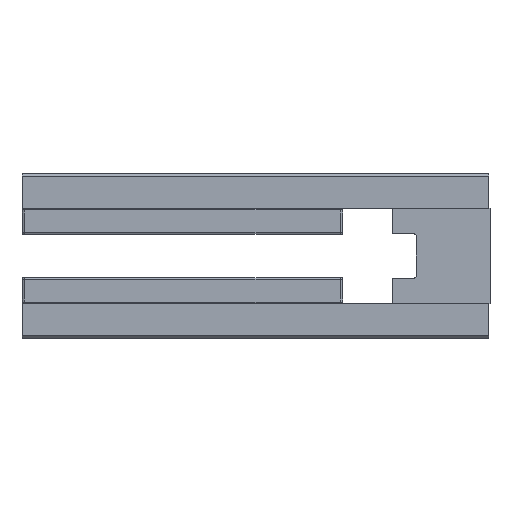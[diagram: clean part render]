
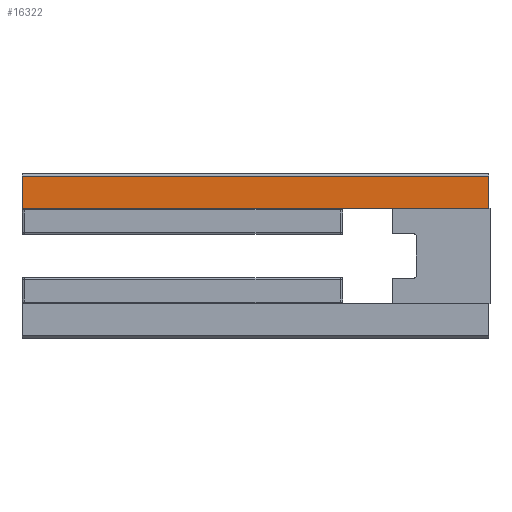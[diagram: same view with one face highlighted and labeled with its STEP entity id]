
A CAD part, front view. The second image highlights one B-rep face of the part: STEP entity #16322.
In plain terms, the highlighted planar face has unit normal (0, -1, 0).
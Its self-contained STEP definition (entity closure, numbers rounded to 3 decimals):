
#314 = ORIENTED_EDGE ( 'NONE', *, *, #17160, .F. ) ;
#1542 = EDGE_CURVE ( 'NONE', #21745, #1947, #18080, .T. ) ;
#1947 = VERTEX_POINT ( 'NONE', #9264 ) ;
#2206 = ORIENTED_EDGE ( 'NONE', *, *, #1542, .T. ) ;
#3010 = CARTESIAN_POINT ( 'NONE',  ( 0., 19.04, 5.5 ) ) ;
#4591 = VERTEX_POINT ( 'NONE', #20540 ) ;
#4744 = LINE ( 'NONE', #9221, #11172 ) ;
#6145 = VECTOR ( 'NONE', #19027, 1000. ) ;
#7275 = CARTESIAN_POINT ( 'NONE',  ( 80., 19.04, -4. ) ) ;
#7338 = DIRECTION ( 'NONE',  ( 0., 0., 1. ) ) ;
#7958 = CARTESIAN_POINT ( 'NONE',  ( 0., 19.04, 0. ) ) ;
#9221 = CARTESIAN_POINT ( 'NONE',  ( 0., 19.04, -4. ) ) ;
#9264 = CARTESIAN_POINT ( 'NONE',  ( 80., 19.04, 0. ) ) ;
#9361 = ORIENTED_EDGE ( 'NONE', *, *, #19065, .T. ) ;
#11172 = VECTOR ( 'NONE', #7338, 1000. ) ;
#11825 = VECTOR ( 'NONE', #17507, 1000. ) ;
#12577 = LINE ( 'NONE', #16563, #6145 ) ;
#13125 = VERTEX_POINT ( 'NONE', #19548 ) ;
#14372 = ORIENTED_EDGE ( 'NONE', *, *, #24174, .T. ) ;
#14568 = AXIS2_PLACEMENT_3D ( 'NONE', #7275, #19952, #22024 ) ;
#15321 = PLANE ( 'NONE',  #14568 ) ;
#15616 = VECTOR ( 'NONE', #22569, 1000. ) ;
#16322 = ADVANCED_FACE ( 'NONE', ( #23692 ), #15321, .F. ) ;
#16563 = CARTESIAN_POINT ( 'NONE',  ( 80., 19.04, -4. ) ) ;
#17160 = EDGE_CURVE ( 'NONE', #21745, #4591, #4744, .T. ) ;
#17507 = DIRECTION ( 'NONE',  ( -1., 0., 0. ) ) ;
#18080 = LINE ( 'NONE', #20107, #15616 ) ;
#19027 = DIRECTION ( 'NONE',  ( 0., 0., 1. ) ) ;
#19065 = EDGE_CURVE ( 'NONE', #13125, #4591, #21323, .T. ) ;
#19548 = CARTESIAN_POINT ( 'NONE',  ( 80., 19.04, 5.5 ) ) ;
#19952 = DIRECTION ( 'NONE',  ( 0., 1., 0. ) ) ;
#20107 = CARTESIAN_POINT ( 'NONE',  ( 0., 19.04, 0. ) ) ;
#20540 = CARTESIAN_POINT ( 'NONE',  ( 0., 19.04, 5.5 ) ) ;
#21323 = LINE ( 'NONE', #3010, #11825 ) ;
#21745 = VERTEX_POINT ( 'NONE', #7958 ) ;
#22024 = DIRECTION ( 'NONE',  ( 1., 0., 0. ) ) ;
#22569 = DIRECTION ( 'NONE',  ( 1., 0., 0. ) ) ;
#23692 = FACE_OUTER_BOUND ( 'NONE', #25417, .T. ) ;
#24174 = EDGE_CURVE ( 'NONE', #1947, #13125, #12577, .T. ) ;
#25417 = EDGE_LOOP ( 'NONE', ( #14372, #9361, #314, #2206 ) ) ;
